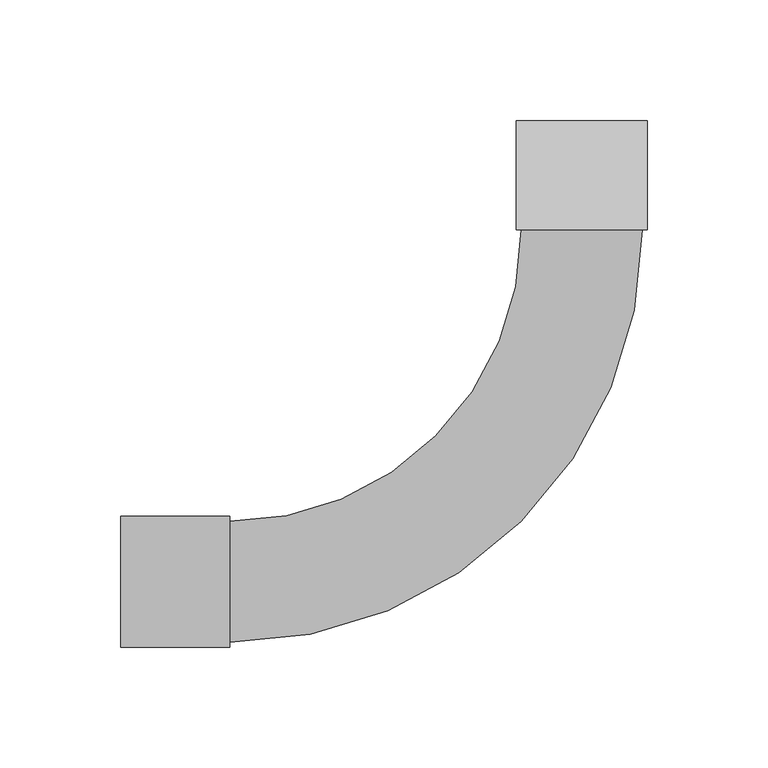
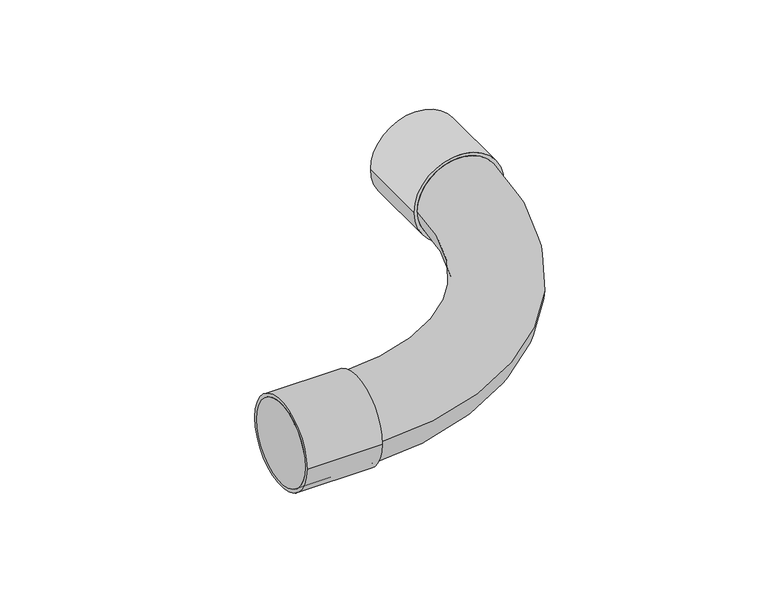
"""IFC4 building model written with IfcOpenShell, lengths in millimetres: cable carrier fitting geometry, Поворот на 90 труба-труба CRSG : Поворот на 90 труба-труба CRSG."""

from ifc_helpers import new_model, si_unit, point, frame, origin, origin_2d, place, context, project, spatial, circle_curve, ellipse_curve, trimmed, segment, composite_curve, outline, extrude, source, transform, mapped, element, save
from ifc_brep_helpers import plane_surface, cylinder_surface, revolved_surface, advanced_brep


def cable_carrier_fitting_1439cf0d(model_context):
    return source(origin(), model_context, "Body", "SolidModel", [
        advanced_brep(
        [(-190.4746, -24.9936, 0.0), (-190.4746, 24.9936, 0.0), (-145.4912, -24.9936, 0.0), (-145.4912, 24.9936, 0.0), (-24.9936, 145.4912, 0.0), (24.9936, 145.4912, 0.0), (24.9936, 190.4746, 0.0), (-24.9936, 190.4746, 0.0)],
        [
            (0, 1, circle_curve(frame((-190.4746, 0.0, 0.0), z_axis=(-1.0, 0.0, 0.0), x_axis=(0.0, 1.0, 0.0)), 24.9936)),
            (1, 0, circle_curve(frame((-190.4746, 0.0, 0.0), z_axis=(-1.0, 0.0, 0.0), x_axis=(0.0, 1.0, 0.0)), 24.9936)),
            (0, 2),
            (2, 3, circle_curve(frame((-145.4912, 0.0, 0.0), z_axis=(-1.0, 0.0, 0.0), x_axis=(0.0, 1.0, 0.0)), 24.9936)),
            (3, 1),
            (3, 2, circle_curve(frame((-145.4912, 0.0, 0.0), z_axis=(-1.0, 0.0, 0.0), x_axis=(0.0, 1.0, 0.0)), 24.9936)),
            (4, 3, circle_curve(frame((-145.4912, 145.4912, 0.0), z_axis=(0.0, 0.0, -1.0), x_axis=(0.0, -1.0, 0.0)), 120.4976)),
            (2, 5, circle_curve(frame((-145.4912, 145.4912, 0.0), z_axis=(0.0, 0.0, 1.0), x_axis=(0.0, -1.0, 0.0)), 170.4848)),
            (5, 4, circle_curve(frame((0.0, 145.4912, 0.0), z_axis=(0.0, -1.0, 0.0), x_axis=(-1.0, 0.0, 0.0)), 24.9936)),
            (4, 5, circle_curve(frame((0.0, 145.4912, 0.0), z_axis=(0.0, -1.0, 0.0), x_axis=(-1.0, 0.0, 0.0)), 24.9936)),
            (6, 7, circle_curve(frame((0.0, 190.4746, 0.0), z_axis=(0.0, 1.0, 0.0), x_axis=(-1.0, 0.0, 0.0)), 24.9936)),
            (7, 6, circle_curve(frame((0.0, 190.4746, 0.0), z_axis=(0.0, 1.0, 0.0), x_axis=(-1.0, 0.0, 0.0)), 24.9936)),
            (5, 6),
            (7, 4),
        ],
        [
            plane_surface(frame((-190.4746, 0.0, 0.0), z_axis=(-1.0, 0.0, 0.0), x_axis=(0.0, 0.0, 1.0))),
            cylinder_surface(frame((-190.4746, 0.0, 0.0), z_axis=(-1.0, 0.0, 0.0), x_axis=(0.0, 1.0, 0.0)), 24.9936),
            revolved_surface(trimmed(ellipse_curve(frame((-145.4912, 0.0, 0.0), z_axis=(-1.0, 0.0, 0.0), x_axis=(0.0, 1.0, 0.0)), 24.9936, 24.9936), [point((-145.4912, -24.9936, 0.0))], [point((-145.4912, 24.9936, 0.0))], True, "CARTESIAN"), (-145.4912, 145.4912, 0.0), (0.0, 0.0, 1.0)),
            revolved_surface(trimmed(ellipse_curve(frame((-145.4912, 0.0, 0.0), z_axis=(-1.0, 0.0, 0.0), x_axis=(0.0, 1.0, 0.0)), 24.9936, 24.9936), [point((-145.4912, 24.9936, 0.0))], [point((-145.4912, -24.9936, 0.0))], True, "CARTESIAN"), (-145.4912, 145.4912, 0.0), (0.0, 0.0, 1.0)),
            plane_surface(frame((0.0, 190.4746, 0.0), z_axis=(0.0, 1.0, 0.0), x_axis=(0.0, 0.0, 1.0))),
            cylinder_surface(frame((0.0, 145.4912, 0.0), z_axis=(0.0, -1.0, 0.0), x_axis=(-1.0, 0.0, 0.0)), 24.9936),
        ],
        [
            (0, [[1, 2]]),
            (1, [[-1, 3, 4, 5]]),
            (1, [[-2, -5, 6, -3]]),
            (2, [[7, -4, 8, 9]]),
            (3, [[-8, -6, -7, 10]]),
            (4, [[11, 12]]),
            (5, [[-9, 13, -12, 14]]),
            (5, [[-10, -14, -11, -13]]),
        ],
    ),
        extrude(outline(composite_curve([segment(trimmed(circle_curve(origin_2d(), 27.0), [point((-27.0, 0.0))], [point((27.0, 0.0))], False, "CARTESIAN"), True, "CONTINUOUS"), segment(trimmed(circle_curve(origin_2d(), 27.0), [point((27.0, 0.0))], [point((-27.0, 0.0))], False, "CARTESIAN"), True, "CONTINUOUS")], self_intersect=False)), frame((-190.4746, 0.0, 0.0), z_axis=(1.0, 0.0, 0.0), x_axis=(0.0, 1.0, 0.0)), (0.0, 0.0, 1.0), 44.9834),
        extrude(outline(composite_curve([segment(trimmed(circle_curve(origin_2d(), 27.0), [point((0.0, 27.0))], [point((0.0, -27.0))], False, "CARTESIAN"), True, "CONTINUOUS"), segment(trimmed(circle_curve(origin_2d(), 27.0), [point((0.0, -27.0))], [point((0.0, 27.0))], False, "CARTESIAN"), True, "CONTINUOUS")], self_intersect=False)), frame((0.0, 145.4912, 0.0), z_axis=(0.0, 1.0, 0.0), x_axis=(0.0, 0.0, 1.0)), (0.0, 0.0, 1.0), 44.9834),
    ])


if __name__ == "__main__":
    model = new_model("IFC4")
    model_context = context("Model", 3, world=origin())
    ifc_project = project(units=[si_unit("LENGTHUNIT", "METRE", prefix="MILLI")], contexts=[model_context])
    site = spatial("IfcSite", under=ifc_project)
    building = spatial("IfcBuilding", under=site)
    placement = place(None, origin())
    cable_carrier_fitting_shape = cable_carrier_fitting_1439cf0d(model_context)
    element("IfcCableCarrierFitting", 1, ObjectType="Поворот на 90 труба-труба CRSG : Поворот на 90 труба-труба CRSG", at=placement, inside=building, context=model_context, shape_type="MappedRepresentation", body=[
        mapped(cable_carrier_fitting_shape, transform((0.0, 0.0, 0.0), x_axis=(1.0, 0.0, 0.0), y_axis=(0.0, 1.0, 0.0), z_axis=(0.0, 0.0, 1.0))),
    ])
    save(model, "model.ifc")
